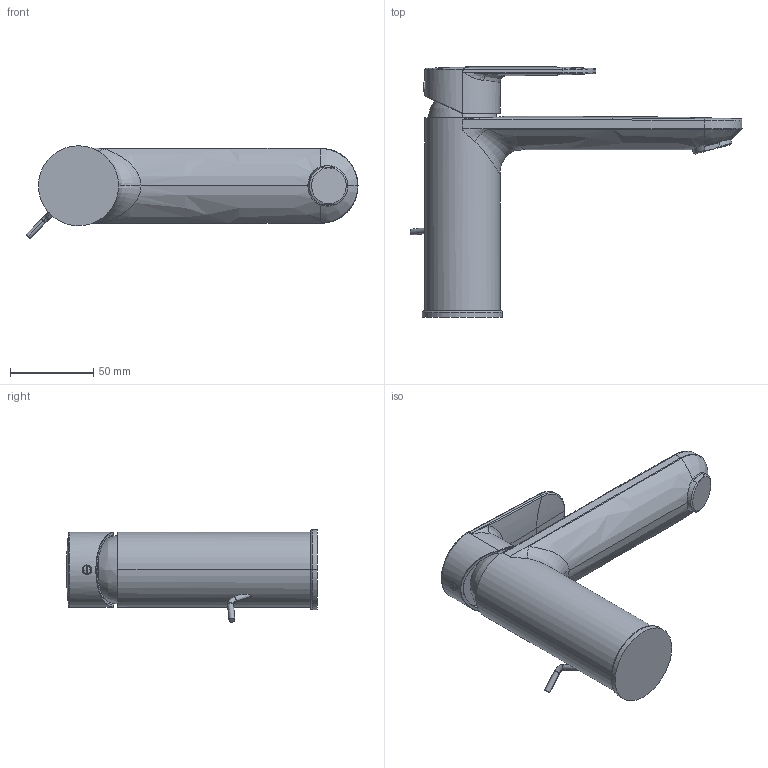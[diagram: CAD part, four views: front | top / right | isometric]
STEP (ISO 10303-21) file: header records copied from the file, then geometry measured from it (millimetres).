
FILE_DESCRIPTION((''),'2;1');
FILE_NAME('12_381_042_XXX','2018-02-19T',('ES997'),(''),'CREO PARAMETRIC BY PTC INC, 2016260','CREO PARAMETRIC BY PTC INC, 2016260','');
FILE_SCHEMA(('CONFIG_CONTROL_DESIGN'));
Length unit declared in the file: millimetre
Products named in the file (1): 12_381_042_XXX
Bounding box: 198.94 x 150.3 x 55.44 mm (x, y, z)
Volume: 341974.7 mm3; surface area: 51245.1 mm2
Topology: 2 solids, 2 shells, 206 faces, 530 edges, 330 vertices
Faces by surface type: bspline 69, cylinder 50, plane 46, torus 17, cone 14, extrusion 8, sphere 2
Entity records: 18572 total; most frequent: CARTESIAN_POINT 14257, ORIENTED_EDGE 1048, DIRECTION 627, EDGE_CURVE 524, VERTEX_POINT 330, B_SPLINE_CURVE_WITH_KNOTS 282, AXIS2_PLACEMENT_3D 240, EDGE_LOOP 216
